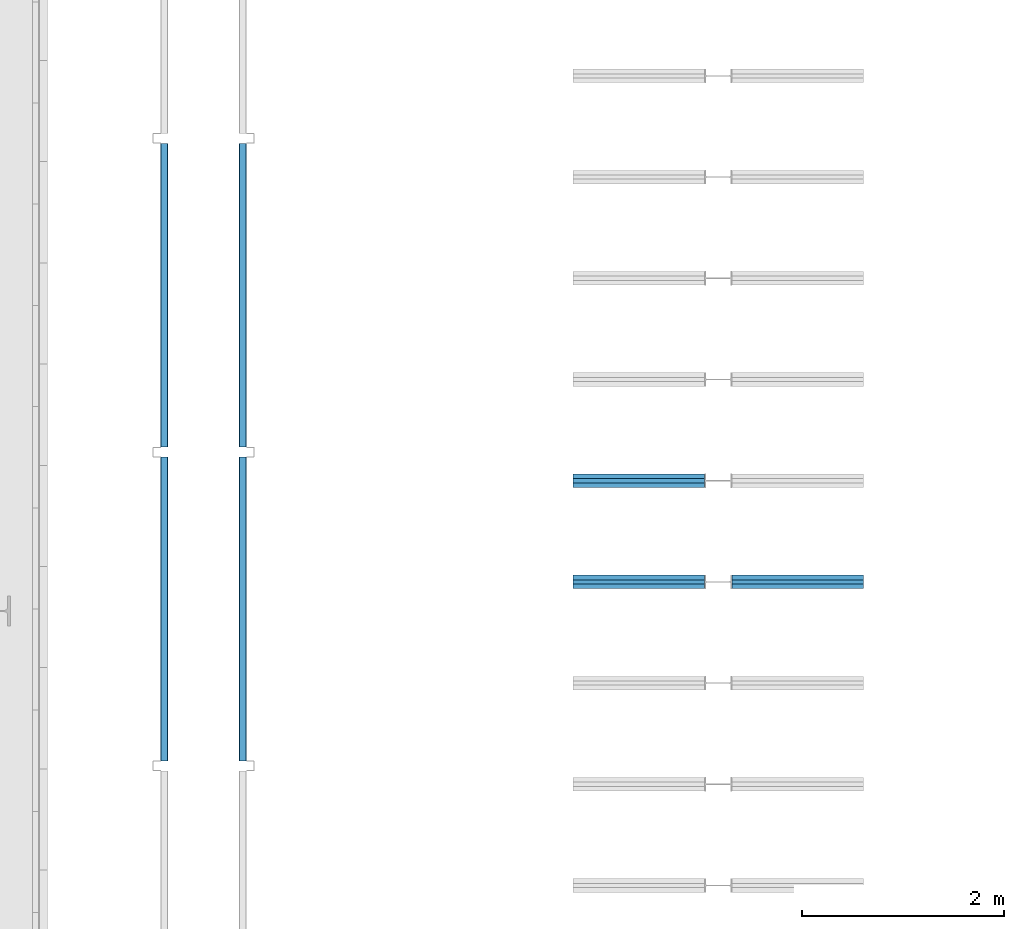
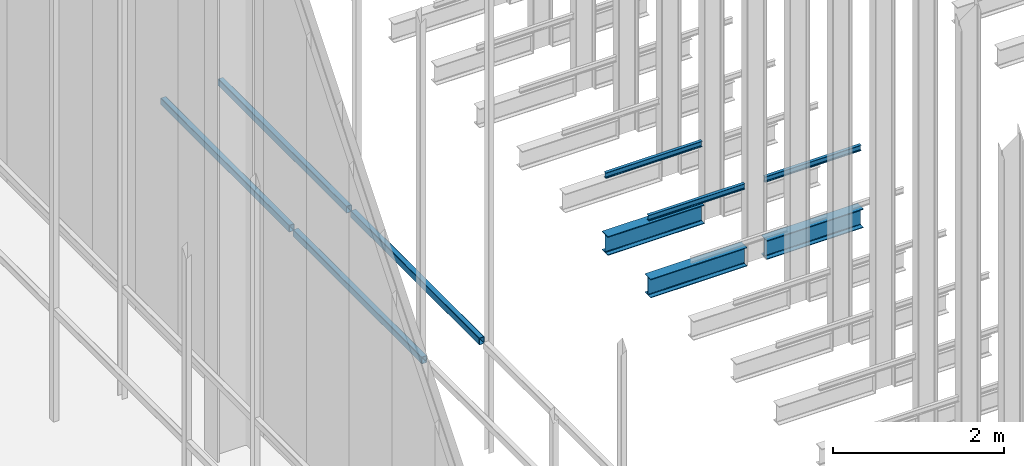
# One storey, part 165 of 302: 10 beams.
"""IFC2X3 building model written with IfcOpenShell, lengths in metres."""

import ifcopenshell
import ifcopenshell.guid

model = None  # the IFC model being written
_history = None  # IfcOwnerHistory: only IFC2X3 demands one
_inside = {}  # id of a spatial element -> (the spatial element, [elements in it])
_under = {}  # id of a project, library or spatial element -> (it, [spatial elements below it])
_declared = {}  # id of a project -> (the project, [libraries it declares])
_typed = {}  # id of a type object -> (the type object, [elements of that type])
_made_of = {}  # id of a material, layer set ... -> (it, [elements and type objects made of it])


def new_model(schema):
    """Start an empty IFC model of exactly this schema.

    Asked for "IFC4X3", IfcOpenShell would pick the latest addendum, in which some entities
    have other attributes; the version numbers below select the first issue.
    IFC2X3 requires an IfcOwnerHistory on every rooted entity: one is made here for all.
    """
    global model, _history
    if schema == "IFC4X3":
        model = ifcopenshell.file(schema_version=(4, 3, 0, 0))
    else:
        model = ifcopenshell.file(schema=schema)
    _inside.clear()
    _under.clear()
    _declared.clear()
    _typed.clear()
    _made_of.clear()
    _history = None
    if model.schema == "IFC2X3":
        org = make("IfcOrganization", Name="unknown")
        user = make(
            "IfcPersonAndOrganization",
            ThePerson=make("IfcPerson", FamilyName="unknown"),
            TheOrganization=org,
        )
        app = make(
            "IfcApplication",
            ApplicationDeveloper=org,
            Version="unknown",
            ApplicationFullName="unknown",
            ApplicationIdentifier="unknown",
        )
        _history = make(
            "IfcOwnerHistory",
            OwningUser=user,
            OwningApplication=app,
            ChangeAction="ADDED",
            CreationDate=0,
        )
    return model


def make(cls, **values):
    """One entity of the class cls with the attributes given. An attribute that is None is left unset."""
    return model.create_entity(
        cls, **{name: value for name, value in values.items() if value is not None}
    )


def entity(cls, *values):
    """Any entity or typed value of the class cls, its attributes in the order of the schema. None: left unset."""
    e = model.create_entity(cls)
    for i, value in enumerate(values):
        if value is not None:
            e[i] = value
    return e


def rooted(cls, **values):
    """An entity with a GlobalId (a new one), such as an element, a storey or a relation."""
    return make(cls, GlobalId=ifcopenshell.guid.new(), OwnerHistory=_history, **values)


def si_unit(unit_type, name, prefix=None):
    """IfcSIUnit, for example si_unit("LENGTHUNIT", "METRE", prefix="MILLI")."""
    return make("IfcSIUnit", UnitType=unit_type, Prefix=prefix, Name=name)


def converted_unit(unit_type, name, factor, base, dimensions=None, offset=None):
    """IfcConversionBasedUnit, such as the inch: factor (a typed value) times the base unit."""
    return make(
        "IfcConversionBasedUnit"
        if offset is None
        else "IfcConversionBasedUnitWithOffset",
        ConversionOffset=offset,
        Dimensions=None
        if dimensions is None
        else entity("IfcDimensionalExponents", *dimensions),
        UnitType=unit_type,
        Name=name,
        ConversionFactor=make(
            "IfcMeasureWithUnit", ValueComponent=factor, UnitComponent=base
        ),
    )


def derived_unit(unit_type, elements):
    """IfcDerivedUnit: a product of units, each with its exponent."""
    return make(
        "IfcDerivedUnit",
        Elements=[
            make("IfcDerivedUnitElement", Unit=unit, Exponent=power)
            for unit, power in elements
        ],
        UnitType=unit_type,
    )


def assignment(units):
    """IfcUnitAssignment: the units of a project."""
    return None if units is None else make("IfcUnitAssignment", Units=units)


def point(xyz):
    """IfcCartesianPoint."""
    return None if xyz is None else make("IfcCartesianPoint", Coordinates=xyz)


def direction(xyz):
    """IfcDirection."""
    return None if xyz is None else make("IfcDirection", DirectionRatios=xyz)


def frame(location, z_axis=None, x_axis=None):
    """IfcAxis2Placement3D, a coordinate frame: its origin and axes. An axis left out is left unset."""
    return make(
        "IfcAxis2Placement3D",
        Location=point(location),
        Axis=direction(z_axis),
        RefDirection=direction(x_axis),
    )


def frame_2d(location, x_axis=None):
    """IfcAxis2Placement2D, a coordinate frame in the plane: its origin and x axis."""
    return make(
        "IfcAxis2Placement2D", Location=point(location), RefDirection=direction(x_axis)
    )


def origin():
    """The frame at (0, 0, 0) with its axes left unset."""
    return frame((0.0, 0.0, 0.0))


def place(relative_to, where):
    """IfcLocalPlacement: puts the frame where relative to a parent placement (None: the world)."""
    return make(
        "IfcLocalPlacement", PlacementRelTo=relative_to, RelativePlacement=where
    )


def context(
    kind, dimensions, precision=None, world=None, true_north=None, identifier=None
):
    """IfcGeometricRepresentationContext, for example the 3D "Model" context."""
    return make(
        "IfcGeometricRepresentationContext",
        ContextIdentifier=identifier,
        ContextType=kind,
        CoordinateSpaceDimension=dimensions,
        Precision=precision,
        WorldCoordinateSystem=world,
        TrueNorth=true_north,
    )


def subcontext(parent, identifier, kind, view, scale=None):
    """IfcGeometricRepresentationSubContext, for example "Body" below "Model"."""
    return make(
        "IfcGeometricRepresentationSubContext",
        ContextIdentifier=identifier,
        ContextType=kind,
        ParentContext=parent,
        TargetScale=scale,
        TargetView=view,
    )


def project(units=None, contexts=None):
    """IfcProject with its units and contexts."""
    return rooted(
        "IfcProject",
        Name="project",
        RepresentationContexts=contexts,
        UnitsInContext=assignment(units),
    )


def spatial(cls, under=None, at=None, **own):
    """A site, building, storey or space (cls), placed at a placement, below another one or the project."""
    s = rooted(cls, ObjectPlacement=at, **own)
    if under is not None:
        _under.setdefault(under.id(), (under, []))[1].append(s)
    return s


def polyline(points):
    """IfcPolyline through the points."""
    return make("IfcPolyline", Points=[point(p) for p in points])


def circle_curve(where, radius):
    """IfcCircle in the frame where."""
    return make("IfcCircle", Position=where, Radius=radius)


def parameter(value):
    """IfcParameterValue: where a trimmed curve begins or ends, as a parameter of its basis curve."""
    return model.create_entity("IfcParameterValue", value)


def trimmed(basis, trim1, trim2, sense, master):
    """IfcTrimmedCurve: the piece of a basis curve between two trims."""
    return make(
        "IfcTrimmedCurve",
        BasisCurve=basis,
        Trim1=trim1,
        Trim2=trim2,
        SenseAgreement=sense,
        MasterRepresentation=master,
    )


def segment(curve, same_sense, transition):
    """IfcCompositeCurveSegment."""
    return make(
        "IfcCompositeCurveSegment",
        Transition=transition,
        SameSense=same_sense,
        ParentCurve=curve,
    )


def composite_curve(segments, self_intersect=None):
    """IfcCompositeCurve: segments joined end to end."""
    return make("IfcCompositeCurve", Segments=segments, SelfIntersect=self_intersect)


def profile(cls, at=None, kind="AREA", **sizes):
    """A parametric profile (cls). Its sizes go by their IFC names, for example OverallWidth=200.0."""
    return make(cls, ProfileType=kind, Position=at, **sizes)


def i_section(**sizes):
    """IfcIShapeProfileDef."""
    return profile("IfcIShapeProfileDef", **sizes)


def outline(outer, holes=None, kind="AREA"):
    """IfcArbitraryClosedProfileDef: a profile drawn as a closed curve; with holes, ...WithVoids."""
    if holes is None:
        return make("IfcArbitraryClosedProfileDef", ProfileType=kind, OuterCurve=outer)
    return make(
        "IfcArbitraryProfileDefWithVoids",
        ProfileType=kind,
        OuterCurve=outer,
        InnerCurves=holes,
    )


def extrude(swept, where, along, depth):
    """IfcExtrudedAreaSolid: the profile swept, set in the frame where, extruded along a direction by depth."""
    return make(
        "IfcExtrudedAreaSolid",
        SweptArea=swept,
        Position=where,
        ExtrudedDirection=direction(along),
        Depth=depth,
    )


def shape(context_of_items, identifier, shape_type, items):
    """IfcShapeRepresentation: the items that make up one representation, for example the "Body"."""
    return make(
        "IfcShapeRepresentation",
        ContextOfItems=context_of_items,
        RepresentationIdentifier=identifier,
        RepresentationType=shape_type,
        Items=items,
    )


def material(Name=None, Category=None):
    """IfcMaterial."""
    return make("IfcMaterial", Name=Name, Category=Category)


def made_of(thing, what):
    """Note that an element or type object is made of a material, layer set ...; save() writes the relation."""
    if what is not None:
        _made_of.setdefault(what.id(), (what, []))[1].append(thing)
    return thing


def type_object(cls, material=None, **own):
    """A type object (cls), such as IfcWallType, which elements share."""
    return made_of(rooted(cls, **own), material)


def element(
    cls,
    number,
    at=None,
    inside=None,
    cuts=None,
    type_object=None,
    material=None,
    context=None,
    identifier="Body",
    shape_type=None,
    held_by="IfcProductDefinitionShape",
    body=None,
    shapes=None,
    **own,
):
    """One element of the class cls, such as IfcWall. Its Tag is "e" and its number.

    at: its placement. inside: the storey or other place that contains it. cuts: it is an
    opening in that element (IfcRelVoidsElement). A single representation is given by context,
    identifier, shape_type and body (its items); several are given by shapes. held_by: the class
    of the entity that holds the representations. save() writes the other relations.
    """
    e = rooted(cls, Tag="e%d" % number, ObjectPlacement=at, **own)
    if body is not None:
        shapes = [shape(context, identifier, shape_type, body)]
    if shapes is not None:
        e.Representation = make(held_by, Representations=shapes)
    if inside is not None:
        _inside.setdefault(inside.id(), (inside, []))[1].append(e)
    if cuts is not None:
        rooted(
            "IfcRelVoidsElement", RelatingBuildingElement=cuts, RelatedOpeningElement=e
        )
    if type_object is not None:
        _typed.setdefault(type_object.id(), (type_object, []))[1].append(e)
    return made_of(e, material)


def aggregate(whole, parts):
    """IfcRelAggregates: a whole, such as a stair, and the parts it consists of."""
    return rooted("IfcRelAggregates", RelatingObject=whole, RelatedObjects=parts)


def save(model, path):
    """Write the relations noted so far, then the file.

    IfcRelAggregates (storeys below a building ...), IfcRelContainedInSpatialStructure (elements
    in a storey), IfcRelDefinesByType, IfcRelAssociatesMaterial and IfcRelDeclares: one each for
    every whole, place, type object, material and project.
    """
    for whole, parts in _under.values():
        aggregate(whole, parts)
    for where, things in _inside.values():
        rooted(
            "IfcRelContainedInSpatialStructure",
            RelatedElements=things,
            RelatingStructure=where,
        )
    for kind, things in _typed.values():
        rooted("IfcRelDefinesByType", RelatedObjects=things, RelatingType=kind)
    for what, things in _made_of.values():
        rooted("IfcRelAssociatesMaterial", RelatedObjects=things, RelatingMaterial=what)
    for by, libraries in _declared.values():
        rooted("IfcRelDeclares", RelatingContext=by, RelatedDefinitions=libraries)
    model.write(path)


model = new_model("IFC2X3")

# Units and contexts
model_context = context("Model", 3, precision=1e-05, world=origin(), true_north=direction((6.12303176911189e-17, 1.0)))
body_context = subcontext(model_context, "Body", "Model", "MODEL_VIEW")
ifc_project = project(units=[si_unit("LENGTHUNIT", "METRE"), si_unit("AREAUNIT", "SQUARE_METRE"), si_unit("VOLUMEUNIT", "CUBIC_METRE"), converted_unit("PLANEANGLEUNIT", "DEGREE", entity("IfcRatioMeasure", 0.0174532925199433), si_unit("PLANEANGLEUNIT", "RADIAN"), dimensions=[0, 0, 0, 0, 0, 0, 0]), si_unit("MASSUNIT", "GRAM", prefix="KILO"), derived_unit("MASSDENSITYUNIT", [(si_unit("MASSUNIT", "GRAM", prefix="KILO"), 1), (si_unit("LENGTHUNIT", "METRE"), -3)]), derived_unit("MOMENTOFINERTIAUNIT", [(si_unit("LENGTHUNIT", "METRE"), 4)]), si_unit("TIMEUNIT", "SECOND"), si_unit("FREQUENCYUNIT", "HERTZ"), si_unit("THERMODYNAMICTEMPERATUREUNIT", "DEGREE_CELSIUS"), derived_unit("THERMALTRANSMITTANCEUNIT", [(si_unit("MASSUNIT", "GRAM", prefix="KILO"), 1), (si_unit("THERMODYNAMICTEMPERATUREUNIT", "KELVIN"), -1), (si_unit("TIMEUNIT", "SECOND"), -3)]), derived_unit("VOLUMETRICFLOWRATEUNIT", [(si_unit("LENGTHUNIT", "METRE"), 3), (si_unit("TIMEUNIT", "SECOND"), -1)]), si_unit("ELECTRICCURRENTUNIT", "AMPERE"), si_unit("ELECTRICVOLTAGEUNIT", "VOLT"), si_unit("POWERUNIT", "WATT"), si_unit("FORCEUNIT", "NEWTON", prefix="KILO"), si_unit("ILLUMINANCEUNIT", "LUX"), si_unit("LUMINOUSFLUXUNIT", "LUMEN"), si_unit("LUMINOUSINTENSITYUNIT", "CANDELA"), derived_unit("USERDEFINED", [(si_unit("MASSUNIT", "GRAM", prefix="KILO"), -1), (si_unit("LENGTHUNIT", "METRE"), -2), (si_unit("TIMEUNIT", "SECOND"), 3), (si_unit("LUMINOUSFLUXUNIT", "LUMEN"), 1)]), derived_unit("LINEARVELOCITYUNIT", [(si_unit("LENGTHUNIT", "METRE"), 1), (si_unit("TIMEUNIT", "SECOND"), -1)]), si_unit("PRESSUREUNIT", "PASCAL"), derived_unit("USERDEFINED", [(si_unit("LENGTHUNIT", "METRE"), -2), (si_unit("MASSUNIT", "GRAM", prefix="KILO"), 1), (si_unit("TIMEUNIT", "SECOND"), -2)]), derived_unit("LINEARFORCEUNIT", [(si_unit("MASSUNIT", "GRAM", prefix="KILO"), 1), (si_unit("LENGTHUNIT", "METRE"), 1), (si_unit("TIMEUNIT", "SECOND"), -2), (si_unit("LENGTHUNIT", "METRE"), -1)]), derived_unit("PLANARFORCEUNIT", [(si_unit("MASSUNIT", "GRAM", prefix="KILO"), 1), (si_unit("LENGTHUNIT", "METRE"), 1), (si_unit("TIMEUNIT", "SECOND"), -2), (si_unit("LENGTHUNIT", "METRE"), -2)])], contexts=[model_context])

# Site, building, storey
site_placement = place(None, origin())
site = spatial("IfcSite", under=ifc_project, at=site_placement, Name="Default", CompositionType="ELEMENT")
building_placement = place(site_placement, origin())
building = spatial("IfcBuilding", under=site, at=building_placement, CompositionType="ELEMENT")
storey_placement = place(building_placement, frame((0.0, 0.0, -1.3)))
storey = spatial("IfcBuildingStorey", under=building, at=storey_placement, Name="00_EG", CompositionType="ELEMENT", Elevation=-1.3)

# Beams
ifc_material_1 = material(Name="Metall - Baustahl S235 blau")
beam_type_1 = type_object("IfcBeamType", Name="RHS Träger (EN 10219-2):RHS 100 x 75 x 5", PredefinedType="NOTDEFINED")
beam_1_placement = place(storey_placement, frame((-175.305111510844, 30.248088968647, 2.885), z_axis=(0.0, 0.0, 1.0), x_axis=(0.0, 1.0, 0.0)))
element("IfcBeam", 1, at=beam_1_placement, inside=storey, type_object=beam_type_1, material=ifc_material_1, Name="RHS Träger (EN 10219-2):RHS 100 x 75 x 5", ObjectType="RHS Träger (EN 10219-2):RHS 100 x 75 x 5", context=body_context, shape_type="SweptSolid", body=[
    extrude(outline(composite_curve([segment(trimmed(circle_curve(frame_2d((-0.0274999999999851, -0.0400000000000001), x_axis=(1.0, 0.0)), 0.01), [parameter(180.0)], [parameter(270.0)], True, "PARAMETER"), True, "CONTINUOUS"), segment(polyline([(-0.0274999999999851, -0.05), (0.0274999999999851, -0.05)]), True, "CONTINUOUS"), segment(trimmed(circle_curve(frame_2d((0.0274999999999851, -0.0400000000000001), x_axis=(1.0, 0.0)), 0.01), [parameter(270.0)], [parameter(5.08888749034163e-14)], True, "PARAMETER"), True, "CONTINUOUS"), segment(polyline([(0.0375000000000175, -0.0399999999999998), (0.0375000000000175, 0.0400000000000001)]), True, "CONTINUOUS"), segment(trimmed(circle_curve(frame_2d((0.0274999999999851, 0.0399999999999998), x_axis=(1.0, 0.0)), 0.01), [parameter(360.0)], [parameter(89.9999999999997)], True, "PARAMETER"), True, "CONTINUOUS"), segment(polyline([(0.0274999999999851, 0.05), (-0.0274999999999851, 0.05)]), True, "CONTINUOUS"), segment(trimmed(circle_curve(frame_2d((-0.0274999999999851, 0.0399999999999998), x_axis=(1.0, 0.0)), 0.01), [parameter(90.0000000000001)], [parameter(180.0)], True, "PARAMETER"), True, "CONTINUOUS"), segment(polyline([(-0.0374999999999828, 0.0400000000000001), (-0.0374999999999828, -0.0399999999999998)]), True, "CONTINUOUS")], self_intersect=False), holes=[composite_curve([segment(polyline([(0.0274999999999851, -0.0450000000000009), (-0.0274999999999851, -0.0450000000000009)]), True, "CONTINUOUS"), segment(trimmed(circle_curve(frame_2d((-0.0274999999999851, -0.0400000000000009), x_axis=(1.0, 0.0)), 0.005), [parameter(180.0)], [parameter(270.0)], True, "PARAMETER"), False, "CONTINUOUS"), segment(polyline([(-0.0325000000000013, -0.0400000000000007), (-0.0325000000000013, 0.0399999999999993)]), True, "CONTINUOUS"), segment(trimmed(circle_curve(frame_2d((-0.0274999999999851, 0.039999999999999), x_axis=(1.0, 0.0)), 0.005), [parameter(90.0000000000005)], [parameter(180.0)], True, "PARAMETER"), False, "CONTINUOUS"), segment(polyline([(-0.0274999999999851, 0.0449999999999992), (0.0274999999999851, 0.0449999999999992)]), True, "CONTINUOUS"), segment(trimmed(circle_curve(frame_2d((0.0274999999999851, 0.039999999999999), x_axis=(1.0, 0.0)), 0.005), [parameter(0.0)], [parameter(90.0000000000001)], True, "PARAMETER"), False, "CONTINUOUS"), segment(polyline([(0.0325000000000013, 0.0399999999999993), (0.0325000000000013, -0.0400000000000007)]), True, "CONTINUOUS"), segment(trimmed(circle_curve(frame_2d((0.0274999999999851, -0.0400000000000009), x_axis=(1.0, 0.0)), 0.005), [parameter(270.0)], [parameter(4.07110999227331e-13)], True, "PARAMETER"), False, "CONTINUOUS")], self_intersect=False)]), frame((0.00010000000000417, 0.0375000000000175, -0.0500000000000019), z_axis=(1.0, 0.0, 0.0), x_axis=(0.0, -1.0, 0.0)), (0.0, 0.0, 1.0), 2.9998),
])
beam_2_placement = place(storey_placement, frame((-176.155111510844, 30.248088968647, 2.885), z_axis=(0.0, 0.0, 1.0), x_axis=(0.0, 1.0, 0.0)))
element("IfcBeam", 2, at=beam_2_placement, inside=storey, type_object=beam_type_1, material=ifc_material_1, Name="RHS Träger (EN 10219-2):RHS 100 x 75 x 5", ObjectType="RHS Träger (EN 10219-2):RHS 100 x 75 x 5", context=body_context, shape_type="SweptSolid", body=[
    extrude(outline(composite_curve([segment(polyline([(-0.0399999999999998, -0.0374999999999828), (0.0400000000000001, -0.0374999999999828)]), True, "CONTINUOUS"), segment(trimmed(circle_curve(frame_2d((0.0399999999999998, -0.0274999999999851), x_axis=(0.0, 1.0)), 0.01), [parameter(180.0)], [parameter(270.0)], True, "PARAMETER"), True, "CONTINUOUS"), segment(polyline([(0.05, -0.0274999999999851), (0.05, 0.0274999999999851)]), True, "CONTINUOUS"), segment(trimmed(circle_curve(frame_2d((0.0399999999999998, 0.0274999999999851), x_axis=(0.0, 1.0)), 0.01), [parameter(270.0)], [parameter(4.07110999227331e-13)], True, "PARAMETER"), True, "CONTINUOUS"), segment(polyline([(0.0400000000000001, 0.0375000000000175), (-0.0399999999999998, 0.0375000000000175)]), True, "CONTINUOUS"), segment(trimmed(circle_curve(frame_2d((-0.0400000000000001, 0.0274999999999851), x_axis=(0.0, 1.0)), 0.01), [parameter(360.0)], [parameter(90.0000000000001)], True, "PARAMETER"), True, "CONTINUOUS"), segment(polyline([(-0.05, 0.0274999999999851), (-0.05, -0.0274999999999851)]), True, "CONTINUOUS"), segment(trimmed(circle_curve(frame_2d((-0.0400000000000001, -0.0274999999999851), x_axis=(0.0, 1.0)), 0.01), [parameter(90.0000000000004)], [parameter(180.0)], True, "PARAMETER"), True, "CONTINUOUS")], self_intersect=False), holes=[composite_curve([segment(trimmed(circle_curve(frame_2d((-0.0400000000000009, 0.0274999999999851), x_axis=(0.0, 1.0)), 0.005), [parameter(360.0)], [parameter(89.9999999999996)], True, "PARAMETER"), False, "CONTINUOUS"), segment(polyline([(-0.0400000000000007, 0.0325000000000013), (0.0399999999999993, 0.0325000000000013)]), True, "CONTINUOUS"), segment(trimmed(circle_curve(frame_2d((0.039999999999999, 0.0274999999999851), x_axis=(0.0, 1.0)), 0.005), [parameter(270.0)], [parameter(0.0)], True, "PARAMETER"), False, "CONTINUOUS"), segment(polyline([(0.0449999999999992, 0.0274999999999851), (0.0449999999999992, -0.0274999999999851)]), True, "CONTINUOUS"), segment(trimmed(circle_curve(frame_2d((0.039999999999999, -0.0274999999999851), x_axis=(0.0, 1.0)), 0.005), [parameter(180.0)], [parameter(269.999999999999)], True, "PARAMETER"), False, "CONTINUOUS"), segment(polyline([(0.0399999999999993, -0.0325000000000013), (-0.0400000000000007, -0.0325000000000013)]), True, "CONTINUOUS"), segment(trimmed(circle_curve(frame_2d((-0.0400000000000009, -0.0274999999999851), x_axis=(0.0, 1.0)), 0.005), [parameter(90.0000000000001)], [parameter(180.0)], True, "PARAMETER"), False, "CONTINUOUS"), segment(polyline([(-0.0450000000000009, -0.0274999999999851), (-0.0450000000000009, 0.0274999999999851)]), True, "CONTINUOUS")], self_intersect=False)]), frame((0.00010000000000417, -0.0375000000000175, -0.0500000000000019), z_axis=(1.0, 0.0, 0.0), x_axis=(0.0, 0.0, -1.0)), (0.0, 0.0, 1.0), 2.9998),
])
beam_3_placement = place(storey_placement, frame((-175.305111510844, 33.3480889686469, 2.885), z_axis=(0.0, 0.0, 1.0), x_axis=(0.0, 1.0, 0.0)))
element("IfcBeam", 3, at=beam_3_placement, inside=storey, type_object=beam_type_1, material=ifc_material_1, Name="RHS Träger (EN 10219-2):RHS 100 x 75 x 5", ObjectType="RHS Träger (EN 10219-2):RHS 100 x 75 x 5", context=body_context, shape_type="SweptSolid", body=[
    extrude(outline(composite_curve([segment(trimmed(circle_curve(frame_2d((-0.0274999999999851, -0.0400000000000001), x_axis=(1.0, 0.0)), 0.01), [parameter(180.0)], [parameter(270.0)], True, "PARAMETER"), True, "CONTINUOUS"), segment(polyline([(-0.0274999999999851, -0.05), (0.0274999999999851, -0.05)]), True, "CONTINUOUS"), segment(trimmed(circle_curve(frame_2d((0.0274999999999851, -0.0400000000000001), x_axis=(1.0, 0.0)), 0.01), [parameter(270.0)], [parameter(5.08888749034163e-14)], True, "PARAMETER"), True, "CONTINUOUS"), segment(polyline([(0.0375000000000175, -0.0399999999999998), (0.0375000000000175, 0.0400000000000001)]), True, "CONTINUOUS"), segment(trimmed(circle_curve(frame_2d((0.0274999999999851, 0.0399999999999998), x_axis=(1.0, 0.0)), 0.01), [parameter(360.0)], [parameter(89.9999999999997)], True, "PARAMETER"), True, "CONTINUOUS"), segment(polyline([(0.0274999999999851, 0.05), (-0.0274999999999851, 0.05)]), True, "CONTINUOUS"), segment(trimmed(circle_curve(frame_2d((-0.0274999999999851, 0.0399999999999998), x_axis=(1.0, 0.0)), 0.01), [parameter(90.0000000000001)], [parameter(180.0)], True, "PARAMETER"), True, "CONTINUOUS"), segment(polyline([(-0.0374999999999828, 0.0400000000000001), (-0.0374999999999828, -0.0399999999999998)]), True, "CONTINUOUS")], self_intersect=False), holes=[composite_curve([segment(polyline([(0.0274999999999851, -0.0450000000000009), (-0.0274999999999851, -0.0450000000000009)]), True, "CONTINUOUS"), segment(trimmed(circle_curve(frame_2d((-0.0274999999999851, -0.0400000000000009), x_axis=(1.0, 0.0)), 0.005), [parameter(180.0)], [parameter(270.0)], True, "PARAMETER"), False, "CONTINUOUS"), segment(polyline([(-0.0325000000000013, -0.0400000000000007), (-0.0325000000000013, 0.0399999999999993)]), True, "CONTINUOUS"), segment(trimmed(circle_curve(frame_2d((-0.0274999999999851, 0.039999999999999), x_axis=(1.0, 0.0)), 0.005), [parameter(90.0000000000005)], [parameter(180.0)], True, "PARAMETER"), False, "CONTINUOUS"), segment(polyline([(-0.0274999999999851, 0.0449999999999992), (0.0274999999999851, 0.0449999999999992)]), True, "CONTINUOUS"), segment(trimmed(circle_curve(frame_2d((0.0274999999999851, 0.039999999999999), x_axis=(1.0, 0.0)), 0.005), [parameter(0.0)], [parameter(90.0000000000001)], True, "PARAMETER"), False, "CONTINUOUS"), segment(polyline([(0.0325000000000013, 0.0399999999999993), (0.0325000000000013, -0.0400000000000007)]), True, "CONTINUOUS"), segment(trimmed(circle_curve(frame_2d((0.0274999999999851, -0.0400000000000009), x_axis=(1.0, 0.0)), 0.005), [parameter(270.0)], [parameter(4.07110999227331e-13)], True, "PARAMETER"), False, "CONTINUOUS")], self_intersect=False)]), frame((9.99999999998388e-05, 0.0375000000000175, -0.0500000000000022), z_axis=(1.0, 0.0, 0.0), x_axis=(0.0, -1.0, 0.0)), (0.0, 0.0, 1.0), 2.9998),
])
beam_4_placement = place(storey_placement, frame((-176.155111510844, 33.3480889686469, 2.885), z_axis=(0.0, 0.0, 1.0), x_axis=(0.0, 1.0, 0.0)))
element("IfcBeam", 4, at=beam_4_placement, inside=storey, type_object=beam_type_1, material=ifc_material_1, Name="RHS Träger (EN 10219-2):RHS 100 x 75 x 5", ObjectType="RHS Träger (EN 10219-2):RHS 100 x 75 x 5", context=body_context, shape_type="SweptSolid", body=[
    extrude(outline(composite_curve([segment(polyline([(-0.0399999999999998, -0.0374999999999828), (0.0400000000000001, -0.0374999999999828)]), True, "CONTINUOUS"), segment(trimmed(circle_curve(frame_2d((0.0399999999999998, -0.0274999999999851), x_axis=(0.0, 1.0)), 0.01), [parameter(180.0)], [parameter(270.0)], True, "PARAMETER"), True, "CONTINUOUS"), segment(polyline([(0.05, -0.0274999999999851), (0.05, 0.0274999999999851)]), True, "CONTINUOUS"), segment(trimmed(circle_curve(frame_2d((0.0399999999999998, 0.0274999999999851), x_axis=(0.0, 1.0)), 0.01), [parameter(270.0)], [parameter(4.07110999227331e-13)], True, "PARAMETER"), True, "CONTINUOUS"), segment(polyline([(0.0400000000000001, 0.0375000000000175), (-0.0399999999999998, 0.0375000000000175)]), True, "CONTINUOUS"), segment(trimmed(circle_curve(frame_2d((-0.0400000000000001, 0.0274999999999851), x_axis=(0.0, 1.0)), 0.01), [parameter(360.0)], [parameter(90.0000000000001)], True, "PARAMETER"), True, "CONTINUOUS"), segment(polyline([(-0.05, 0.0274999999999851), (-0.05, -0.0274999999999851)]), True, "CONTINUOUS"), segment(trimmed(circle_curve(frame_2d((-0.0400000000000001, -0.0274999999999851), x_axis=(0.0, 1.0)), 0.01), [parameter(90.0000000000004)], [parameter(180.0)], True, "PARAMETER"), True, "CONTINUOUS")], self_intersect=False), holes=[composite_curve([segment(trimmed(circle_curve(frame_2d((-0.0400000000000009, 0.0274999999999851), x_axis=(0.0, 1.0)), 0.005), [parameter(360.0)], [parameter(89.9999999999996)], True, "PARAMETER"), False, "CONTINUOUS"), segment(polyline([(-0.0400000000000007, 0.0325000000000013), (0.0399999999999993, 0.0325000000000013)]), True, "CONTINUOUS"), segment(trimmed(circle_curve(frame_2d((0.039999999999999, 0.0274999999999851), x_axis=(0.0, 1.0)), 0.005), [parameter(270.0)], [parameter(0.0)], True, "PARAMETER"), False, "CONTINUOUS"), segment(polyline([(0.0449999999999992, 0.0274999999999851), (0.0449999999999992, -0.0274999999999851)]), True, "CONTINUOUS"), segment(trimmed(circle_curve(frame_2d((0.039999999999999, -0.0274999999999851), x_axis=(0.0, 1.0)), 0.005), [parameter(180.0)], [parameter(269.999999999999)], True, "PARAMETER"), False, "CONTINUOUS"), segment(polyline([(0.0399999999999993, -0.0325000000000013), (-0.0400000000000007, -0.0325000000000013)]), True, "CONTINUOUS"), segment(trimmed(circle_curve(frame_2d((-0.0400000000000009, -0.0274999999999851), x_axis=(0.0, 1.0)), 0.005), [parameter(90.0000000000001)], [parameter(180.0)], True, "PARAMETER"), False, "CONTINUOUS"), segment(polyline([(-0.0450000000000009, -0.0274999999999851), (-0.0450000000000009, 0.0274999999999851)]), True, "CONTINUOUS")], self_intersect=False)]), frame((9.99999999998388e-05, -0.0375000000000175, -0.0500000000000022), z_axis=(1.0, 0.0, 0.0), x_axis=(0.0, 0.0, -1.0)), (0.0, 0.0, 1.0), 2.9998),
])
ifc_material_2 = material(Name="Metall - Baustahl S235")
beam_type_2 = type_object("IfcBeamType", Name="IPN Träger:IPN 80", PredefinedType="NOTDEFINED")
beam_5_placement = place(storey_placement, frame((-170.780111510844, 33.036588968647, 2.42), z_axis=(0.0, 0.0, 1.0), x_axis=(-1.0, 0.0, 0.0)))
element("IfcBeam", 5, at=beam_5_placement, inside=storey, type_object=beam_type_2, material=ifc_material_2, Name="IPN Träger:IPN 80", ObjectType="IPN Träger:IPN 80", context=body_context, shape_type="SweptSolid", body=[
    extrude(outline(composite_curve([segment(polyline([(0.0375704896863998, -0.0209999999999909), (0.0399999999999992, -0.0209999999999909)]), True, "CONTINUOUS"), segment(polyline([(0.0399999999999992, -0.0209999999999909), (0.0399999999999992, 0.0210000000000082)]), True, "CONTINUOUS"), segment(polyline([(0.039999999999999, 0.0210000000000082), (0.037570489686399, 0.0210000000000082)]), True, "CONTINUOUS"), segment(trimmed(circle_curve(frame_2d((0.037570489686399, 0.0187000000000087), x_axis=(0.0, 1.0)), 0.00230000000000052), [parameter(0.0)], [parameter(82.0299999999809)], True, "PARAMETER"), True, "CONTINUOUS"), segment(polyline([(0.0352927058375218, 0.0190189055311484), (0.0333732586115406, 0.00530924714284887)]), True, "CONTINUOUS"), segment(trimmed(circle_curve(frame_2d((0.0295109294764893, 0.00585000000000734), x_axis=(0.990340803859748, -0.138654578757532)), 0.00389999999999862), [parameter(277.969999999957)], [parameter(0.0)], True, "PARAMETER"), False, "CONTINUOUS"), segment(polyline([(0.0295109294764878, 0.00195000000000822), (-0.0295109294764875, 0.00195000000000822)]), True, "CONTINUOUS"), segment(trimmed(circle_curve(frame_2d((-0.029510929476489, 0.00585000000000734), x_axis=(0.0, -1.0)), 0.00389999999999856), [parameter(277.969999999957)], [parameter(0.0)], True, "PARAMETER"), False, "CONTINUOUS"), segment(polyline([(-0.0333732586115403, 0.0053092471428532), (-0.0352927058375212, 0.0190189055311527)]), True, "CONTINUOUS"), segment(trimmed(circle_curve(frame_2d((-0.0375704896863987, 0.0187000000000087), x_axis=(0.990340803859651, 0.138654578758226)), 0.00230000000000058), [parameter(0.0)], [parameter(82.029999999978)], True, "PARAMETER"), True, "CONTINUOUS"), segment(polyline([(-0.0375704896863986, 0.0210000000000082), (-0.0400000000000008, 0.0210000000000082)]), True, "CONTINUOUS"), segment(polyline([(-0.0400000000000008, 0.0210000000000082), (-0.0400000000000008, -0.0209999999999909)]), True, "CONTINUOUS"), segment(polyline([(-0.0400000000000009, -0.0209999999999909), (-0.037570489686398, -0.0209999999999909)]), True, "CONTINUOUS"), segment(trimmed(circle_curve(frame_2d((-0.0375704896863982, -0.0186999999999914), x_axis=(0.0, -1.0)), 0.00230000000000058), [parameter(0.0)], [parameter(82.029999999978)], True, "PARAMETER"), True, "CONTINUOUS"), segment(polyline([(-0.0352927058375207, -0.019018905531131), (-0.0333732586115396, -0.00530924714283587)]), True, "CONTINUOUS"), segment(trimmed(circle_curve(frame_2d((-0.0295109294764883, -0.00584999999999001), x_axis=(-0.990340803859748, 0.138654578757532)), 0.00389999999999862), [parameter(277.969999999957)], [parameter(0.0)], True, "PARAMETER"), False, "CONTINUOUS"), segment(polyline([(-0.0295109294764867, -0.00194999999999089), (0.0295109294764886, -0.00194999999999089)]), True, "CONTINUOUS"), segment(trimmed(circle_curve(frame_2d((0.0295109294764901, -0.00584999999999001), x_axis=(0.0, 1.0)), 0.00389999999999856), [parameter(277.969999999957)], [parameter(0.0)], True, "PARAMETER"), False, "CONTINUOUS"), segment(polyline([(0.0333732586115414, -0.00530924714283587), (0.0352927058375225, -0.0190189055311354)]), True, "CONTINUOUS"), segment(trimmed(circle_curve(frame_2d((0.0375704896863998, -0.0186999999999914), x_axis=(-0.990340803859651, -0.138654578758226)), 0.00230000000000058), [parameter(0.0)], [parameter(82.029999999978)], True, "PARAMETER"), True, "CONTINUOUS")], self_intersect=False)), frame((0.000100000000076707, 0.0209999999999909, -0.0400000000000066), z_axis=(1.0, 0.0, 0.0), x_axis=(0.0, 0.0, -1.0)), (0.0, 0.0, 1.0), 1.29990000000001),
])
beam_6_placement = place(storey_placement, frame((-170.510111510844, 31.994588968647, 2.42)))
element("IfcBeam", 6, at=beam_6_placement, inside=storey, type_object=beam_type_2, material=ifc_material_2, Name="IPN Träger:IPN 80", ObjectType="IPN Träger:IPN 80", context=body_context, shape_type="SweptSolid", body=[
    extrude(outline(composite_curve([segment(polyline([(0.0375704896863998, -0.0209999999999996), (0.0399999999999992, -0.0209999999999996)]), True, "CONTINUOUS"), segment(polyline([(0.0399999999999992, -0.0209999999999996), (0.0399999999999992, 0.0209999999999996)]), True, "CONTINUOUS"), segment(polyline([(0.039999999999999, 0.0209999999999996), (0.037570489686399, 0.0209999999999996)]), True, "CONTINUOUS"), segment(trimmed(circle_curve(frame_2d((0.037570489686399, 0.0187000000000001), x_axis=(0.0, 1.0)), 0.00230000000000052), [parameter(0.0)], [parameter(82.0299999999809)], True, "PARAMETER"), True, "CONTINUOUS"), segment(polyline([(0.0352927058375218, 0.0190189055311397), (0.0333732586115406, 0.00530924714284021)]), True, "CONTINUOUS"), segment(trimmed(circle_curve(frame_2d((0.0295109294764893, 0.00584999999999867), x_axis=(0.990340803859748, -0.138654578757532)), 0.00389999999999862), [parameter(277.969999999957)], [parameter(0.0)], True, "PARAMETER"), False, "CONTINUOUS"), segment(polyline([(0.0295109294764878, 0.00194999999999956), (-0.0295109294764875, 0.00194999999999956)]), True, "CONTINUOUS"), segment(trimmed(circle_curve(frame_2d((-0.029510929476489, 0.00584999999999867), x_axis=(0.0, -1.0)), 0.00389999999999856), [parameter(277.969999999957)], [parameter(0.0)], True, "PARAMETER"), False, "CONTINUOUS"), segment(polyline([(-0.0333732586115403, 0.00530924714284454), (-0.0352927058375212, 0.019018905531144)]), True, "CONTINUOUS"), segment(trimmed(circle_curve(frame_2d((-0.0375704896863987, 0.0187000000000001), x_axis=(0.990340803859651, 0.138654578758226)), 0.00230000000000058), [parameter(0.0)], [parameter(82.029999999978)], True, "PARAMETER"), True, "CONTINUOUS"), segment(polyline([(-0.0375704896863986, 0.0209999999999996), (-0.0400000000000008, 0.0209999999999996)]), True, "CONTINUOUS"), segment(polyline([(-0.0400000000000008, 0.0209999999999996), (-0.0400000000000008, -0.0209999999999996)]), True, "CONTINUOUS"), segment(polyline([(-0.0400000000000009, -0.0209999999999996), (-0.037570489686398, -0.0209999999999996)]), True, "CONTINUOUS"), segment(trimmed(circle_curve(frame_2d((-0.0375704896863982, -0.0187000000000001), x_axis=(0.0, -1.0)), 0.00230000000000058), [parameter(0.0)], [parameter(82.029999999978)], True, "PARAMETER"), True, "CONTINUOUS"), segment(polyline([(-0.0352927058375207, -0.0190189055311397), (-0.0333732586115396, -0.00530924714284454)]), True, "CONTINUOUS"), segment(trimmed(circle_curve(frame_2d((-0.0295109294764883, -0.00584999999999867), x_axis=(-0.990340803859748, 0.138654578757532)), 0.00389999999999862), [parameter(277.969999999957)], [parameter(0.0)], True, "PARAMETER"), False, "CONTINUOUS"), segment(polyline([(-0.0295109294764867, -0.00194999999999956), (0.0295109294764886, -0.00194999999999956)]), True, "CONTINUOUS"), segment(trimmed(circle_curve(frame_2d((0.0295109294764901, -0.00584999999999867), x_axis=(0.0, 1.0)), 0.00389999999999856), [parameter(277.969999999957)], [parameter(0.0)], True, "PARAMETER"), False, "CONTINUOUS"), segment(polyline([(0.0333732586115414, -0.00530924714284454), (0.0352927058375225, -0.019018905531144)]), True, "CONTINUOUS"), segment(trimmed(circle_curve(frame_2d((0.0375704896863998, -0.0187000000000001), x_axis=(-0.990340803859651, -0.138654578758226)), 0.00230000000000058), [parameter(0.0)], [parameter(82.029999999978)], True, "PARAMETER"), True, "CONTINUOUS")], self_intersect=False)), frame((0.000100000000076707, 0.0209999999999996, -0.0400000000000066), z_axis=(1.0, 0.0, 0.0), x_axis=(0.0, 0.0, -1.0)), (0.0, 0.0, 1.0), 1.29990000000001),
])
beam_7_placement = place(storey_placement, frame((-170.780111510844, 32.036588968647, 2.42), z_axis=(0.0, 0.0, 1.0), x_axis=(-1.0, 0.0, 0.0)))
element("IfcBeam", 7, at=beam_7_placement, inside=storey, type_object=beam_type_2, material=ifc_material_2, Name="IPN Träger:IPN 80", ObjectType="IPN Träger:IPN 80", context=body_context, shape_type="SweptSolid", body=[
    extrude(outline(composite_curve([segment(polyline([(0.0375704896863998, -0.0210000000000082), (0.0399999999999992, -0.0210000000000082)]), True, "CONTINUOUS"), segment(polyline([(0.0399999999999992, -0.0210000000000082), (0.0399999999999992, 0.0209999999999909)]), True, "CONTINUOUS"), segment(polyline([(0.039999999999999, 0.0209999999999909), (0.037570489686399, 0.0209999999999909)]), True, "CONTINUOUS"), segment(trimmed(circle_curve(frame_2d((0.037570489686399, 0.0186999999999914), x_axis=(0.0, 1.0)), 0.00230000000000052), [parameter(0.0)], [parameter(82.0299999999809)], True, "PARAMETER"), True, "CONTINUOUS"), segment(polyline([(0.0352927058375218, 0.019018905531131), (0.0333732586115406, 0.00530924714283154)]), True, "CONTINUOUS"), segment(trimmed(circle_curve(frame_2d((0.0295109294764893, 0.00584999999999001), x_axis=(0.990340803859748, -0.138654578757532)), 0.00389999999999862), [parameter(277.969999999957)], [parameter(0.0)], True, "PARAMETER"), False, "CONTINUOUS"), segment(polyline([(0.0295109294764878, 0.00194999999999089), (-0.0295109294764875, 0.00194999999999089)]), True, "CONTINUOUS"), segment(trimmed(circle_curve(frame_2d((-0.029510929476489, 0.00584999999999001), x_axis=(0.0, -1.0)), 0.00389999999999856), [parameter(277.969999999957)], [parameter(0.0)], True, "PARAMETER"), False, "CONTINUOUS"), segment(polyline([(-0.0333732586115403, 0.00530924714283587), (-0.0352927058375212, 0.0190189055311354)]), True, "CONTINUOUS"), segment(trimmed(circle_curve(frame_2d((-0.0375704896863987, 0.0186999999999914), x_axis=(0.990340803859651, 0.138654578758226)), 0.00230000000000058), [parameter(0.0)], [parameter(82.029999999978)], True, "PARAMETER"), True, "CONTINUOUS"), segment(polyline([(-0.0375704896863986, 0.0209999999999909), (-0.0400000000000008, 0.0209999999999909)]), True, "CONTINUOUS"), segment(polyline([(-0.0400000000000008, 0.0209999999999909), (-0.0400000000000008, -0.0210000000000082)]), True, "CONTINUOUS"), segment(polyline([(-0.0400000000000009, -0.0210000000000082), (-0.037570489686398, -0.0210000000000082)]), True, "CONTINUOUS"), segment(trimmed(circle_curve(frame_2d((-0.0375704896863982, -0.0187000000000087), x_axis=(0.0, -1.0)), 0.00230000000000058), [parameter(0.0)], [parameter(82.029999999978)], True, "PARAMETER"), True, "CONTINUOUS"), segment(polyline([(-0.0352927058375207, -0.0190189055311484), (-0.0333732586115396, -0.0053092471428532)]), True, "CONTINUOUS"), segment(trimmed(circle_curve(frame_2d((-0.0295109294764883, -0.00585000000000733), x_axis=(-0.990340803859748, 0.138654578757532)), 0.00389999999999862), [parameter(277.969999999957)], [parameter(0.0)], True, "PARAMETER"), False, "CONTINUOUS"), segment(polyline([(-0.0295109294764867, -0.00195000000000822), (0.0295109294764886, -0.00195000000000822)]), True, "CONTINUOUS"), segment(trimmed(circle_curve(frame_2d((0.0295109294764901, -0.00585000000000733), x_axis=(0.0, 1.0)), 0.00389999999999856), [parameter(277.969999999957)], [parameter(0.0)], True, "PARAMETER"), False, "CONTINUOUS"), segment(polyline([(0.0333732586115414, -0.0053092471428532), (0.0352927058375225, -0.0190189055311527)]), True, "CONTINUOUS"), segment(trimmed(circle_curve(frame_2d((0.0375704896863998, -0.0187000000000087), x_axis=(-0.990340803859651, -0.138654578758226)), 0.00230000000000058), [parameter(0.0)], [parameter(82.029999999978)], True, "PARAMETER"), True, "CONTINUOUS")], self_intersect=False)), frame((0.000100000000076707, 0.0210000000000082, -0.0400000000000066), z_axis=(1.0, 0.0, 0.0), x_axis=(0.0, 0.0, -1.0)), (0.0, 0.0, 1.0), 1.29990000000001),
])
beam_type_3 = type_object("IfcBeamType", Name="IPE Träger:IPE 270", PredefinedType="NOTDEFINED")
beam_8_placement = place(storey_placement, frame((-170.780111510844, 32.083088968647, 1.54000000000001), z_axis=(0.0, 0.0, 1.0), x_axis=(-1.0, 0.0, 0.0)))
element("IfcBeam", 8, at=beam_8_placement, inside=storey, type_object=beam_type_3, material=ifc_material_2, Name="IPE Träger:IPE 270", ObjectType="IPE Träger:IPE 270", context=body_context, shape_type="SweptSolid", body=[
    extrude(i_section(OverallWidth=0.134999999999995, OverallDepth=0.27, WebThickness=0.00660000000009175, FlangeThickness=0.0102000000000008, FilletRadius=0.0150000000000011, at=frame_2d((5.96744875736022e-16, -6.49480469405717e-15), x_axis=(0.0, 1.0))), frame((0.000100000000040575, 0.0675000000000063, -0.135000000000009), z_axis=(1.0, 0.0, 0.0), x_axis=(0.0, 0.0, -1.0)), (0.0, 0.0, 1.0), 1.29990000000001),
])
beam_9_placement = place(storey_placement, frame((-170.510111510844, 32.083088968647, 1.54000000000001)))
element("IfcBeam", 9, at=beam_9_placement, inside=storey, type_object=beam_type_3, material=ifc_material_2, Name="IPE Träger:IPE 270", ObjectType="IPE Träger:IPE 270", context=body_context, shape_type="SweptSolid", body=[
    extrude(i_section(OverallWidth=0.134999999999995, OverallDepth=0.27, WebThickness=0.00660000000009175, FlangeThickness=0.0102000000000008, FilletRadius=0.0150000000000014, at=frame_2d((5.96744875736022e-16, 2.16493489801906e-15), x_axis=(0.0, 1.0))), frame((0.000100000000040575, -0.0674999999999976, -0.135000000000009), z_axis=(1.0, 0.0, 0.0), x_axis=(0.0, 0.0, -1.0)), (0.0, 0.0, 1.0), 1.29990000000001),
])
beam_10_placement = place(storey_placement, frame((-170.780111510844, 33.083088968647, 1.54000000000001), z_axis=(0.0, 0.0, 1.0), x_axis=(-1.0, 0.0, 0.0)))
element("IfcBeam", 10, at=beam_10_placement, inside=storey, type_object=beam_type_3, material=ifc_material_2, Name="IPE Träger:IPE 270", ObjectType="IPE Träger:IPE 270", context=body_context, shape_type="SweptSolid", body=[
    extrude(i_section(OverallWidth=0.134999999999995, OverallDepth=0.27, WebThickness=0.00660000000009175, FlangeThickness=0.0102000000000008, FilletRadius=0.0150000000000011, at=frame_2d((5.96744875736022e-16, -6.49480469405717e-15), x_axis=(0.0, 1.0))), frame((0.000100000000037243, 0.0675000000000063, -0.135000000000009), z_axis=(1.0, 0.0, 0.0), x_axis=(0.0, 0.0, -1.0)), (0.0, 0.0, 1.0), 1.29990000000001),
])

save(model, "model.ifc")
